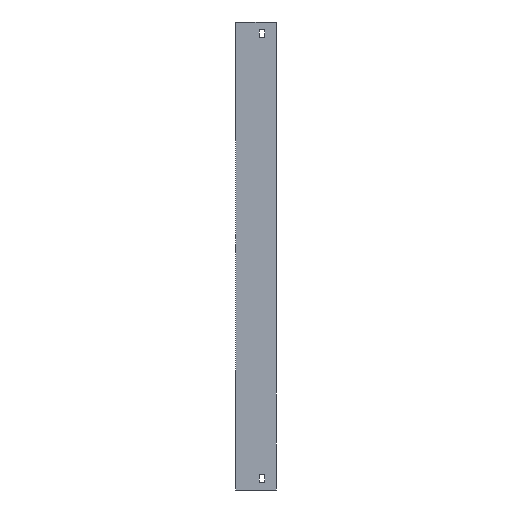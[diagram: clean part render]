
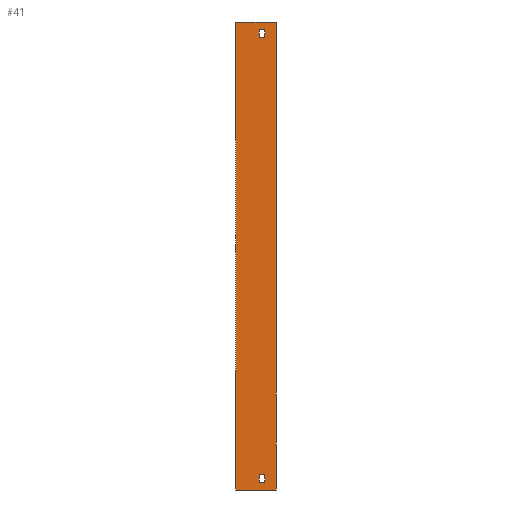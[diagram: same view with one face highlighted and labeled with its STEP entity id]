
A CAD part, left-side view. The second image highlights one B-rep face of the part: STEP entity #41.
In plain terms, the highlighted planar face has unit normal (-1, 0, 0).
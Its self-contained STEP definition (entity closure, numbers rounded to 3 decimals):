
#41 = ADVANCED_FACE ( 'NONE', ( #782, #1374, #1089 ), #348, .F. ) ;
#53 = EDGE_CURVE ( 'NONE', #150, #780, #695, .T. ) ;
#84 = DIRECTION ( 'NONE',  ( 0., -1., 0. ) ) ;
#114 = CARTESIAN_POINT ( 'NONE',  ( -404., 22., 40. ) ) ;
#129 = EDGE_CURVE ( 'NONE', #780, #706, #653, .T. ) ;
#133 = VECTOR ( 'NONE', #1103, 1000. ) ;
#150 = VERTEX_POINT ( 'NONE', #1556 ) ;
#181 = LINE ( 'NONE', #1066, #460 ) ;
#189 = EDGE_CURVE ( 'NONE', #335, #1797, #1108, .T. ) ;
#201 = CARTESIAN_POINT ( 'NONE',  ( -404., 22., -544. ) ) ;
#210 = CARTESIAN_POINT ( 'NONE',  ( -404., 22., -544. ) ) ;
#231 = VECTOR ( 'NONE', #1910, 1000. ) ;
#234 = VECTOR ( 'NONE', #1259, 1000. ) ;
#238 = CARTESIAN_POINT ( 'NONE',  ( -404., 15., -544. ) ) ;
#266 = VECTOR ( 'NONE', #84, 1000. ) ;
#299 = ORIENTED_EDGE ( 'NONE', *, *, #1481, .F. ) ;
#309 = CARTESIAN_POINT ( 'NONE',  ( -404., 15., -544. ) ) ;
#335 = VERTEX_POINT ( 'NONE', #1535 ) ;
#346 = EDGE_CURVE ( 'NONE', #626, #150, #799, .T. ) ;
#348 = PLANE ( 'NONE',  #915 ) ;
#352 = CARTESIAN_POINT ( 'NONE',  ( -404., 22., 30. ) ) ;
#372 = DIRECTION ( 'NONE',  ( 0., 0., 1. ) ) ;
#383 = ORIENTED_EDGE ( 'NONE', *, *, #789, .T. ) ;
#385 = VERTEX_POINT ( 'NONE', #410 ) ;
#410 = CARTESIAN_POINT ( 'NONE',  ( -404., 22., 40. ) ) ;
#418 = ORIENTED_EDGE ( 'NONE', *, *, #1182, .T. ) ;
#438 = ORIENTED_EDGE ( 'NONE', *, *, #1720, .F. ) ;
#460 = VECTOR ( 'NONE', #765, 1000. ) ;
#480 = DIRECTION ( 'NONE',  ( 0., 0., -1. ) ) ;
#487 = ORIENTED_EDGE ( 'NONE', *, *, #53, .F. ) ;
#540 = CARTESIAN_POINT ( 'NONE',  ( -404., 0., 50. ) ) ;
#548 = DIRECTION ( 'NONE',  ( 0., 0., 1. ) ) ;
#550 = VECTOR ( 'NONE', #749, 1000. ) ;
#574 = ORIENTED_EDGE ( 'NONE', *, *, #1000, .T. ) ;
#626 = VERTEX_POINT ( 'NONE', #1206 ) ;
#653 = LINE ( 'NONE', #238, #1757 ) ;
#662 = CARTESIAN_POINT ( 'NONE',  ( -404., 0., -554. ) ) ;
#663 = VERTEX_POINT ( 'NONE', #1262 ) ;
#668 = CARTESIAN_POINT ( 'NONE',  ( -404., 52., -554. ) ) ;
#689 = LINE ( 'NONE', #1647, #1408 ) ;
#695 = LINE ( 'NONE', #210, #266 ) ;
#706 = VERTEX_POINT ( 'NONE', #1710 ) ;
#725 = EDGE_LOOP ( 'NONE', ( #1655, #574, #1100, #418 ) ) ;
#738 = VERTEX_POINT ( 'NONE', #1416 ) ;
#748 = VERTEX_POINT ( 'NONE', #1128 ) ;
#749 = DIRECTION ( 'NONE',  ( 0., -1., 0. ) ) ;
#765 = DIRECTION ( 'NONE',  ( 0., 1., 0. ) ) ;
#780 = VERTEX_POINT ( 'NONE', #309 ) ;
#782 = FACE_OUTER_BOUND ( 'NONE', #1842, .T. ) ;
#789 = EDGE_CURVE ( 'NONE', #1771, #335, #689, .T. ) ;
#799 = LINE ( 'NONE', #201, #133 ) ;
#860 = LINE ( 'NONE', #668, #1412 ) ;
#915 = AXIS2_PLACEMENT_3D ( 'NONE', #1221, #1814, #480 ) ;
#928 = CARTESIAN_POINT ( 'NONE',  ( -404., 52., -554. ) ) ;
#937 = CARTESIAN_POINT ( 'NONE',  ( -404., 15., 40. ) ) ;
#988 = VERTEX_POINT ( 'NONE', #937 ) ;
#1000 = EDGE_CURVE ( 'NONE', #385, #988, #1663, .T. ) ;
#1066 = CARTESIAN_POINT ( 'NONE',  ( -404., 22., -534. ) ) ;
#1089 = FACE_BOUND ( 'NONE', #1766, .T. ) ;
#1100 = ORIENTED_EDGE ( 'NONE', *, *, #1666, .T. ) ;
#1103 = DIRECTION ( 'NONE',  ( 0., 0., -1. ) ) ;
#1108 = LINE ( 'NONE', #662, #1467 ) ;
#1128 = CARTESIAN_POINT ( 'NONE',  ( -404., 52., 50. ) ) ;
#1156 = DIRECTION ( 'NONE',  ( 0., -1., 0. ) ) ;
#1163 = ORIENTED_EDGE ( 'NONE', *, *, #189, .T. ) ;
#1182 = EDGE_CURVE ( 'NONE', #738, #663, #1787, .T. ) ;
#1192 = LINE ( 'NONE', #1310, #231 ) ;
#1206 = CARTESIAN_POINT ( 'NONE',  ( -404., 22., -534. ) ) ;
#1221 = CARTESIAN_POINT ( 'NONE',  ( -404., 52., -554. ) ) ;
#1234 = CARTESIAN_POINT ( 'NONE',  ( -404., 22., 40. ) ) ;
#1259 = DIRECTION ( 'NONE',  ( 0., 0., 1. ) ) ;
#1262 = CARTESIAN_POINT ( 'NONE',  ( -404., 22., 30. ) ) ;
#1267 = ORIENTED_EDGE ( 'NONE', *, *, #129, .F. ) ;
#1310 = CARTESIAN_POINT ( 'NONE',  ( -404., 15., 40. ) ) ;
#1324 = LINE ( 'NONE', #1477, #550 ) ;
#1354 = VECTOR ( 'NONE', #1434, 1000. ) ;
#1374 = FACE_BOUND ( 'NONE', #725, .T. ) ;
#1408 = VECTOR ( 'NONE', #1156, 1000. ) ;
#1412 = VECTOR ( 'NONE', #548, 1000. ) ;
#1416 = CARTESIAN_POINT ( 'NONE',  ( -404., 15., 30. ) ) ;
#1434 = DIRECTION ( 'NONE',  ( 0., -1., 0. ) ) ;
#1447 = VECTOR ( 'NONE', #1503, 1000. ) ;
#1467 = VECTOR ( 'NONE', #1870, 1000. ) ;
#1477 = CARTESIAN_POINT ( 'NONE',  ( -404., 52., 50. ) ) ;
#1481 = EDGE_CURVE ( 'NONE', #706, #626, #181, .T. ) ;
#1503 = DIRECTION ( 'NONE',  ( 0., 1., 0. ) ) ;
#1535 = CARTESIAN_POINT ( 'NONE',  ( -404., 0., -554. ) ) ;
#1556 = CARTESIAN_POINT ( 'NONE',  ( -404., 22., -544. ) ) ;
#1579 = EDGE_CURVE ( 'NONE', #1771, #748, #860, .T. ) ;
#1647 = CARTESIAN_POINT ( 'NONE',  ( -404., 52., -554. ) ) ;
#1655 = ORIENTED_EDGE ( 'NONE', *, *, #1838, .T. ) ;
#1661 = ORIENTED_EDGE ( 'NONE', *, *, #1579, .F. ) ;
#1663 = LINE ( 'NONE', #1234, #1354 ) ;
#1666 = EDGE_CURVE ( 'NONE', #988, #738, #1192, .T. ) ;
#1710 = CARTESIAN_POINT ( 'NONE',  ( -404., 15., -534. ) ) ;
#1720 = EDGE_CURVE ( 'NONE', #748, #1797, #1324, .T. ) ;
#1733 = ORIENTED_EDGE ( 'NONE', *, *, #346, .F. ) ;
#1757 = VECTOR ( 'NONE', #372, 1000. ) ;
#1766 = EDGE_LOOP ( 'NONE', ( #487, #1733, #299, #1267 ) ) ;
#1771 = VERTEX_POINT ( 'NONE', #928 ) ;
#1787 = LINE ( 'NONE', #352, #1447 ) ;
#1797 = VERTEX_POINT ( 'NONE', #540 ) ;
#1814 = DIRECTION ( 'NONE',  ( 1., 0., 0. ) ) ;
#1838 = EDGE_CURVE ( 'NONE', #663, #385, #1869, .T. ) ;
#1842 = EDGE_LOOP ( 'NONE', ( #1163, #438, #1661, #383 ) ) ;
#1869 = LINE ( 'NONE', #114, #234 ) ;
#1870 = DIRECTION ( 'NONE',  ( 0., 0., 1. ) ) ;
#1910 = DIRECTION ( 'NONE',  ( 0., 0., -1. ) ) ;
